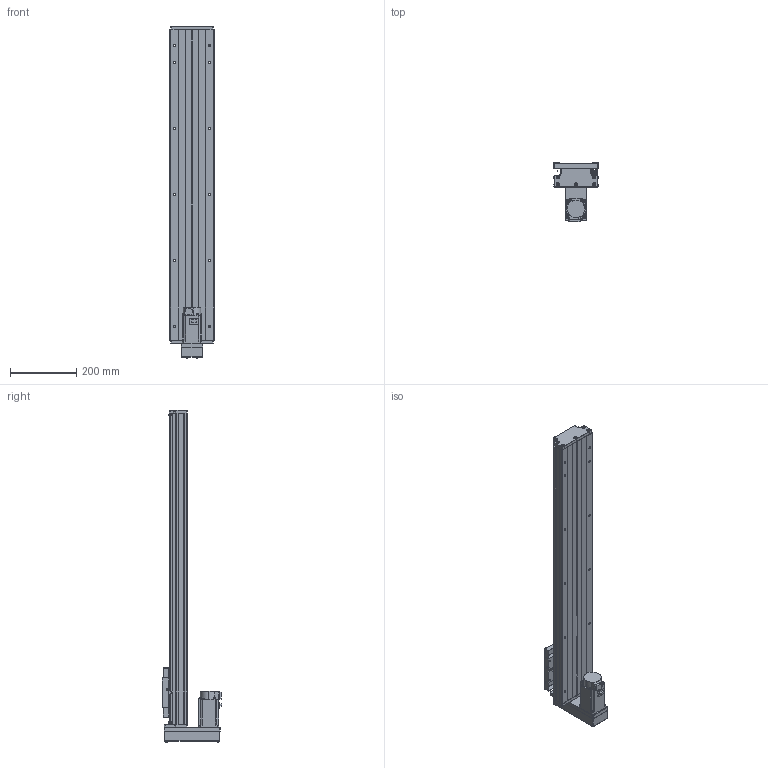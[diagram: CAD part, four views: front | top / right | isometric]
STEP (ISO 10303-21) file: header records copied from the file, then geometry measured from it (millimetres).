
FILE_DESCRIPTION (( 'STEP AP203' ), '1' );
FILE_NAME ('CTH130-750-BM-M40-C4.step', '2023-06-30T02:46:07', ( '微软用户' ), ( '微软中国' ), 'SwSTEP 2.0', 'SolidWorks 2020', '' );
FILE_SCHEMA (( 'CONFIG_CONTROL_DESIGN' ));
Length unit declared in the file: millimetre
Products named in the file (20): GBT 70.1-M3℅5; GTH14-015-2_CTHA86-015-2; GTH14-005; GBT77-2000 M3×3; GTH14-033; GB1155-6X6; CTH130-031; CTH130-750-BM-M40-C4; GBT70.1 M5℅16; GBT 70.2-M3¡Á5_M3¡Á6; GTH14-001_750; CTHA60-017; す晦芛蹟隊 M3℅5; CTH130-002_GTH14-002; EE_SX911P_R; HG-KN43J-S100; GB T308.1-2013-6.35; CTHA60-016; GBT 70.2-M4¡Á35_M4¡Á35; GTH14-004
Assembly tree (60 placements, depth 2):
  CTH130-750-BM-M40-C4
    GTH14-001_750
    CTH130-002_GTH14-002
    GB T308.1-2013-6.35  x2
    GTH14-004
    GTH14-005
    GB1155-6X6  x2
    GBT70.1 M5℅16  x10
    CTHA60-017  x3
    EE_SX911P_R  x3
    CTHA60-016  x2
    GBT 70.1-M3℅5  x6
    GBT77-2000 M3×3  x6
    CTH130-031
    GBT 70.2-M3¡Á5_M3¡Á6  x8
    す晦芛蹟隊 M3℅5  x6
    HG-KN43J-S100
    GBT 70.2-M4¡Á35_M4¡Á35  x4
    GTH14-015-2_CTHA86-015-2
    GTH14-033
Bounding box: 135 x 179.8 x 1004.2 mm (x, y, z)
Volume: 5347660.6 mm3; surface area: 891737.2 mm2
Topology: 63 solids, 63 shells, 2445 faces, 5821 edges, 3601 vertices
Faces by surface type: plane 1312, cylinder 654, cone 299, torus 124, sphere 36, bspline 20
Entity records: 44232 total; most frequent: CARTESIAN_POINT 9897, DIRECTION 6462, ORIENTED_EDGE 6348, EDGE_CURVE 3174, AXIS2_PLACEMENT_3D 2210, VECTOR 2042, LINE 2042, VERTEX_POINT 2011
